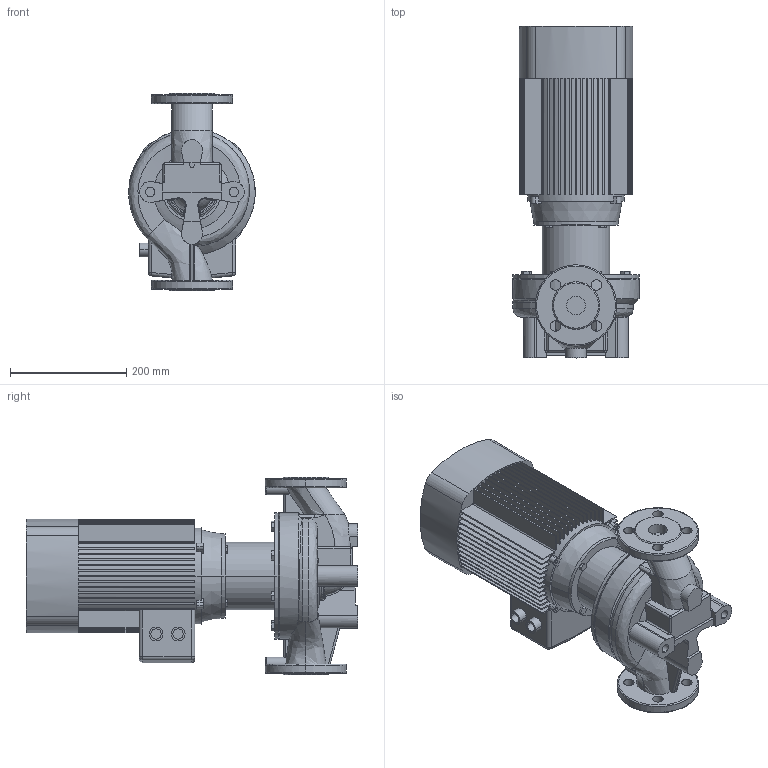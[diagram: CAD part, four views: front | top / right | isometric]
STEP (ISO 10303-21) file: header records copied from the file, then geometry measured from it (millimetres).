
FILE_DESCRIPTION (( 'STEP AP203' ), '1' );
FILE_NAME ('TD32-33G_2.STEP', '2022-05-02T13:25:25', ( '' ), ( '' ), 'SwSTEP 2.0', 'SolidWorks 2019', '' );
FILE_SCHEMA (( 'CONFIG_CONTROL_DESIGN' ));
Length unit declared in the file: millimetre
Products named in the file (4): ED_B14_YE2-100L-2 (3); Pr_ch 32_TD32-33G_2; Fon_32_TD32-33G_2; TD32-33G_2
Assembly tree (3 placements, depth 2):
  TD32-33G_2
    Pr_ch 32_TD32-33G_2
    Fon_32_TD32-33G_2
    ED_B14_YE2-100L-2 (3)
Bounding box: 218 x 572 x 340 mm (x, y, z)
Volume: 14233478.4 mm3; surface area: 1068160.6 mm2
Topology: 3 solids, 4 shells, 653 faces, 1769 edges, 1153 vertices
Faces by surface type: plane 396, cylinder 169, bspline 35, torus 32, cone 11, sphere 10
Entity records: 27200 total; most frequent: CARTESIAN_POINT 10271, ORIENTED_EDGE 3530, DIRECTION 3424, EDGE_CURVE 1765, AXIS2_PLACEMENT_3D 1228, VERTEX_POINT 1153, VECTOR 968, LINE 968
